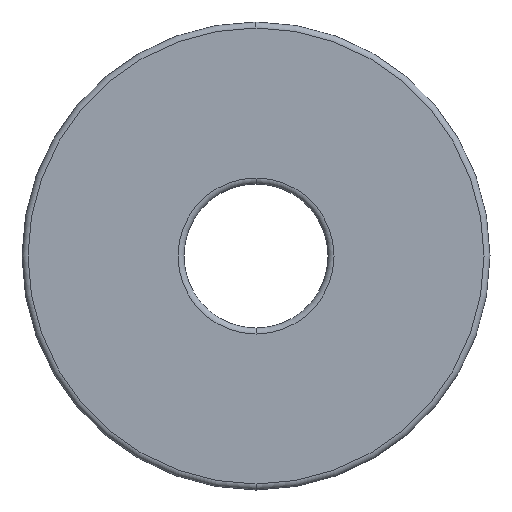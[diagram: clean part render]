
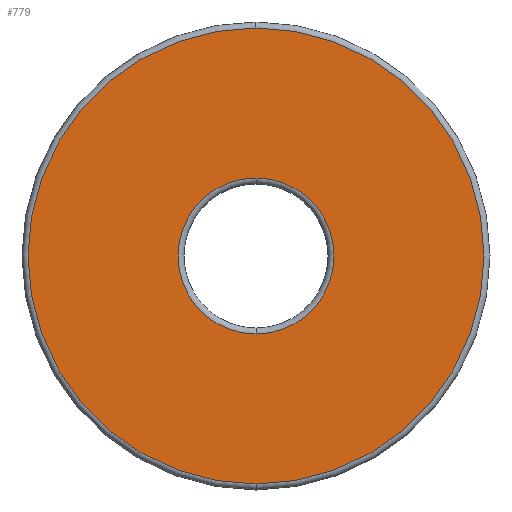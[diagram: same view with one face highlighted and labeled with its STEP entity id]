
A CAD part, front view. The second image highlights one B-rep face of the part: STEP entity #779.
In plain terms, the highlighted planar face has unit normal (0, -1, 0).
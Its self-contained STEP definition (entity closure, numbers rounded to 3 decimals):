
#160=CARTESIAN_POINT('Vertex',(0.,-7.,19.)) ;
#163=CARTESIAN_POINT('Axis2P3D Location',(0.,-7.,0.)) ;
#167=CARTESIAN_POINT('Vertex',(0.,-7.,-19.)) ;
#182=CARTESIAN_POINT('Axis2P3D Location',(0.,-7.,0.)) ;
#199=CARTESIAN_POINT('Axis2P3D Location',(0.,-7.,0.)) ;
#203=CARTESIAN_POINT('Vertex',(0.,-7.,6.5)) ;
#205=CARTESIAN_POINT('Vertex',(0.,-7.,-6.5)) ;
#234=CARTESIAN_POINT('Axis2P3D Location',(0.,-7.,0.)) ;
#766=CARTESIAN_POINT('Axis2P3D Location',(0.,-7.,6.5)) ;
#164=DIRECTION('Axis2P3D Direction',(0.,1.,0.)) ;
#183=DIRECTION('Axis2P3D Direction',(0.,1.,0.)) ;
#200=DIRECTION('Axis2P3D Direction',(0.,1.,0.)) ;
#235=DIRECTION('Axis2P3D Direction',(0.,1.,0.)) ;
#767=DIRECTION('Axis2P3D Direction',(-0.,1.,0.)) ;
#768=DIRECTION('Axis2P3D XDirection',(1.,0.,0.)) ;
#165=AXIS2_PLACEMENT_3D('Circle Axis2P3D',#163,#164,$) ;
#184=AXIS2_PLACEMENT_3D('Circle Axis2P3D',#182,#183,$) ;
#201=AXIS2_PLACEMENT_3D('Circle Axis2P3D',#199,#200,$) ;
#236=AXIS2_PLACEMENT_3D('Circle Axis2P3D',#234,#235,$) ;
#769=AXIS2_PLACEMENT_3D('Plane Axis2P3D',#766,#767,#768) ;
#772=ORIENTED_EDGE('',*,*,#169,.F.) ;
#773=ORIENTED_EDGE('',*,*,#186,.F.) ;
#776=ORIENTED_EDGE('',*,*,#238,.T.) ;
#777=ORIENTED_EDGE('',*,*,#207,.T.) ;
#778=FACE_BOUND('',#775,.T.) ;
#779=ADVANCED_FACE('Corps de pi\X2\00E8\X0\ce.2',(#774,#778),#770,.F.) ;
#166=CIRCLE('generated circle',#165,19.) ;
#185=CIRCLE('generated circle',#184,19.) ;
#202=CIRCLE('generated circle',#201,6.5) ;
#237=CIRCLE('generated circle',#236,6.5) ;
#169=EDGE_CURVE('',#161,#168,#166,.T.) ;
#186=EDGE_CURVE('',#168,#161,#185,.T.) ;
#207=EDGE_CURVE('',#204,#206,#202,.T.) ;
#238=EDGE_CURVE('',#206,#204,#237,.T.) ;
#771=EDGE_LOOP('',(#772,#773)) ;
#775=EDGE_LOOP('',(#776,#777)) ;
#774=FACE_OUTER_BOUND('',#771,.T.) ;
#770=PLANE('',#769) ;
#161=VERTEX_POINT('',#160) ;
#168=VERTEX_POINT('',#167) ;
#204=VERTEX_POINT('',#203) ;
#206=VERTEX_POINT('',#205) ;
